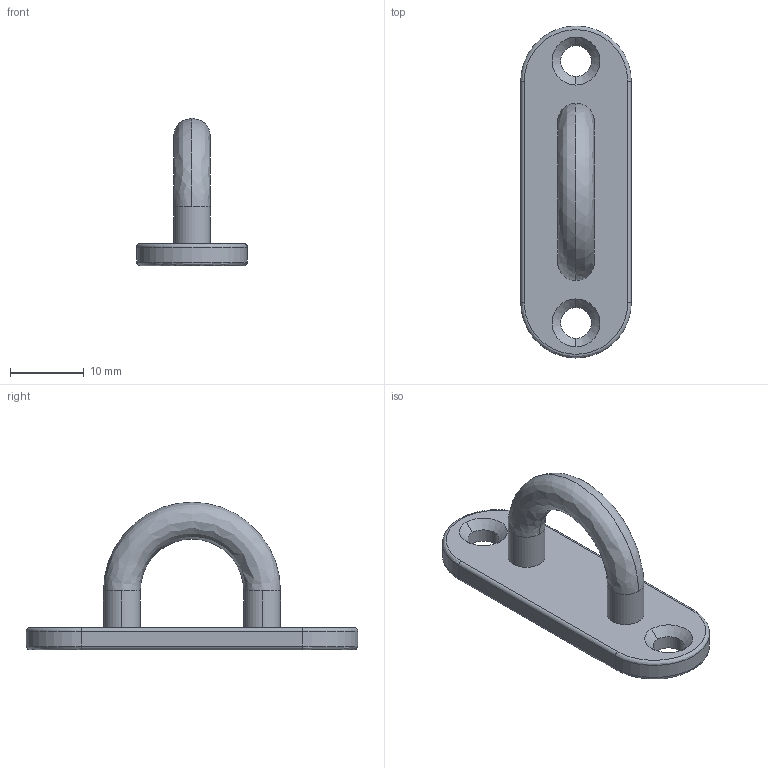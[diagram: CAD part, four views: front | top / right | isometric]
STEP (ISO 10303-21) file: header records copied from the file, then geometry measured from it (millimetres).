
FILE_DESCRIPTION (( 'STEP AP203' ), '1' );
FILE_NAME ('EB-925S-1.STEP', '2014-03-20T04:18:12', ( 'SDS' ), ( 'SDS' ), 'SwSTEP 2.0', 'SolidWorks 2002296', '' );
FILE_SCHEMA (( 'CONFIG_CONTROL_DESIGN' ));
Length unit declared in the file: millimetre
Products named in the file (1): EB-925S-1
Bounding box: 15 x 45 x 20 mm (x, y, z)
Volume: 2547.3 mm3; surface area: 2125.1 mm2
Topology: 1 solids, 1 shells, 28 faces, 70 edges, 44 vertices
Faces by surface type: cylinder 14, bspline 6, plane 4, cone 4
Entity records: 1031 total; most frequent: CARTESIAN_POINT 269, DIRECTION 154, ORIENTED_EDGE 140, EDGE_CURVE 70, AXIS2_PLACEMENT_3D 65, VERTEX_POINT 44, CIRCLE 42, EDGE_LOOP 34
